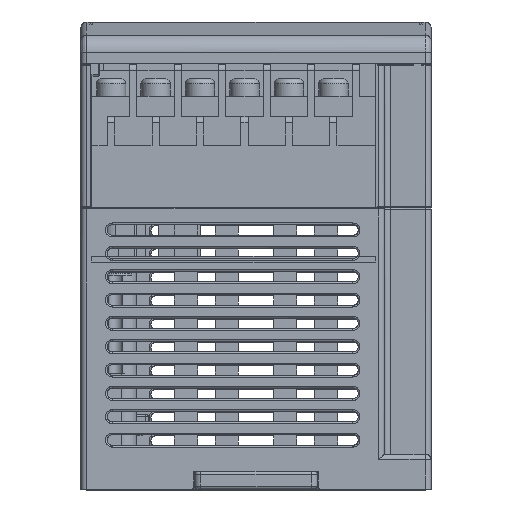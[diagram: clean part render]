
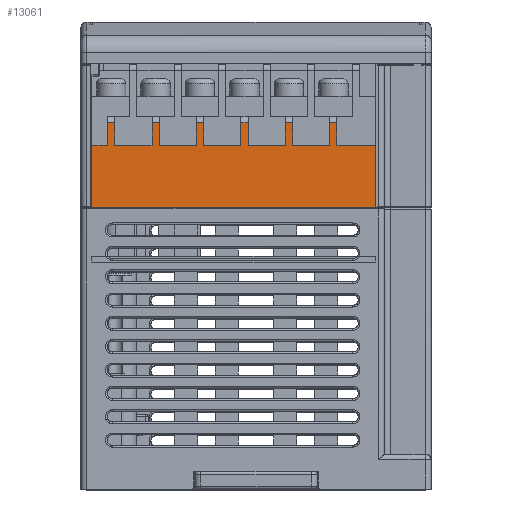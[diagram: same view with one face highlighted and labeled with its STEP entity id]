
A CAD part, top view. The second image highlights one B-rep face of the part: STEP entity #13061.
In plain terms, the highlighted planar face has unit normal (0, 0, 1).
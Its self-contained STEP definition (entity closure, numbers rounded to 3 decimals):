
#13061=ADVANCED_FACE('',(#16136),#74726,.T.);
#16136=FACE_OUTER_BOUND('',#19193,.T.);
#19193=EDGE_LOOP('',(#32343,#32344,#32345,#32346,#32347,#32348,#32349,#32350,
#32351,#32352,#32353,#32354,#32355,#32356,#32357,#32358,#32359,#32360,#32361,
#32362,#32363,#32364,#32365,#32366,#32367,#32368,#32369,#32370));
#32343=ORIENTED_EDGE('',*,*,#46739,.T.);
#32344=ORIENTED_EDGE('',*,*,#46740,.T.);
#32345=ORIENTED_EDGE('',*,*,#46741,.T.);
#32346=ORIENTED_EDGE('',*,*,#46742,.T.);
#32347=ORIENTED_EDGE('',*,*,#46743,.T.);
#32348=ORIENTED_EDGE('',*,*,#46744,.T.);
#32349=ORIENTED_EDGE('',*,*,#46745,.T.);
#32350=ORIENTED_EDGE('',*,*,#46746,.T.);
#32351=ORIENTED_EDGE('',*,*,#46747,.T.);
#32352=ORIENTED_EDGE('',*,*,#46748,.T.);
#32353=ORIENTED_EDGE('',*,*,#46749,.T.);
#32354=ORIENTED_EDGE('',*,*,#46750,.T.);
#32355=ORIENTED_EDGE('',*,*,#46751,.T.);
#32356=ORIENTED_EDGE('',*,*,#46752,.T.);
#32357=ORIENTED_EDGE('',*,*,#46753,.T.);
#32358=ORIENTED_EDGE('',*,*,#46754,.T.);
#32359=ORIENTED_EDGE('',*,*,#46755,.T.);
#32360=ORIENTED_EDGE('',*,*,#46756,.T.);
#32361=ORIENTED_EDGE('',*,*,#46757,.T.);
#32362=ORIENTED_EDGE('',*,*,#46758,.T.);
#32363=ORIENTED_EDGE('',*,*,#46759,.T.);
#32364=ORIENTED_EDGE('',*,*,#46760,.T.);
#32365=ORIENTED_EDGE('',*,*,#46761,.T.);
#32366=ORIENTED_EDGE('',*,*,#46762,.T.);
#32367=ORIENTED_EDGE('',*,*,#46763,.T.);
#32368=ORIENTED_EDGE('',*,*,#46764,.T.);
#32369=ORIENTED_EDGE('',*,*,#46765,.T.);
#32370=ORIENTED_EDGE('',*,*,#46766,.T.);
#46739=EDGE_CURVE('',#71802,#71803,#57638,.T.);
#46740=EDGE_CURVE('',#71803,#71804,#57639,.T.);
#46741=EDGE_CURVE('',#71804,#71805,#57640,.T.);
#46742=EDGE_CURVE('',#71805,#71806,#57641,.T.);
#46743=EDGE_CURVE('',#71806,#71807,#57642,.T.);
#46744=EDGE_CURVE('',#71807,#71808,#57643,.T.);
#46745=EDGE_CURVE('',#71808,#71809,#57644,.T.);
#46746=EDGE_CURVE('',#71809,#71810,#57645,.T.);
#46747=EDGE_CURVE('',#71810,#71811,#57646,.T.);
#46748=EDGE_CURVE('',#71811,#71812,#57647,.T.);
#46749=EDGE_CURVE('',#71812,#71813,#57648,.T.);
#46750=EDGE_CURVE('',#71813,#71814,#57649,.T.);
#46751=EDGE_CURVE('',#71814,#71815,#57650,.T.);
#46752=EDGE_CURVE('',#71815,#71816,#57651,.T.);
#46753=EDGE_CURVE('',#71816,#71817,#57652,.T.);
#46754=EDGE_CURVE('',#71817,#71818,#57653,.T.);
#46755=EDGE_CURVE('',#71818,#71819,#57654,.T.);
#46756=EDGE_CURVE('',#71819,#71820,#57655,.T.);
#46757=EDGE_CURVE('',#71820,#71821,#57656,.T.);
#46758=EDGE_CURVE('',#71821,#71822,#57657,.T.);
#46759=EDGE_CURVE('',#71822,#71823,#57658,.T.);
#46760=EDGE_CURVE('',#71823,#71824,#57659,.T.);
#46761=EDGE_CURVE('',#71824,#71825,#57660,.T.);
#46762=EDGE_CURVE('',#71825,#71826,#57661,.T.);
#46763=EDGE_CURVE('',#71826,#71827,#57662,.T.);
#46764=EDGE_CURVE('',#71827,#71828,#57663,.T.);
#46765=EDGE_CURVE('',#71828,#71829,#57664,.T.);
#46766=EDGE_CURVE('',#71829,#71802,#57665,.T.);
#57638=B_SPLINE_CURVE_WITH_KNOTS('',1,(#152910,#152911),.UNSPECIFIED.,.F.,
 .F.,(2,2),(0.,1.22),.UNSPECIFIED.);
#57639=B_SPLINE_CURVE_WITH_KNOTS('',1,(#152912,#152913),.UNSPECIFIED.,.F.,
 .F.,(2,2),(0.,3.9),.UNSPECIFIED.);
#57640=B_SPLINE_CURVE_WITH_KNOTS('',1,(#152914,#152915),.UNSPECIFIED.,.F.,
 .F.,(2,2),(0.,2.74),.UNSPECIFIED.);
#57641=B_SPLINE_CURVE_WITH_KNOTS('',1,(#152916,#152917),.UNSPECIFIED.,.F.,
 .F.,(2,2),(0.,10.6),.UNSPECIFIED.);
#57642=B_SPLINE_CURVE_WITH_KNOTS('',1,(#152918,#152919),.UNSPECIFIED.,.F.,
 .F.,(2,2),(0.,48.62),.UNSPECIFIED.);
#57643=B_SPLINE_CURVE_WITH_KNOTS('',1,(#152920,#152921),.UNSPECIFIED.,.F.,
 .F.,(2,2),(0.,10.6),.UNSPECIFIED.);
#57644=B_SPLINE_CURVE_WITH_KNOTS('',1,(#152922,#152923),.UNSPECIFIED.,.F.,
 .F.,(2,2),(0.,6.56),.UNSPECIFIED.);
#57645=B_SPLINE_CURVE_WITH_KNOTS('',1,(#152924,#152925),.UNSPECIFIED.,.F.,
 .F.,(2,2),(0.,3.9),.UNSPECIFIED.);
#57646=B_SPLINE_CURVE_WITH_KNOTS('',1,(#152926,#152927),.UNSPECIFIED.,.F.,
 .F.,(2,2),(0.,1.22),.UNSPECIFIED.);
#57647=B_SPLINE_CURVE_WITH_KNOTS('',1,(#152928,#152929),.UNSPECIFIED.,.F.,
 .F.,(2,2),(0.,3.9),.UNSPECIFIED.);
#57648=B_SPLINE_CURVE_WITH_KNOTS('',1,(#152930,#152931),.UNSPECIFIED.,.F.,
 .F.,(2,2),(0.,6.4),.UNSPECIFIED.);
#57649=B_SPLINE_CURVE_WITH_KNOTS('',1,(#152932,#152933),.UNSPECIFIED.,.F.,
 .F.,(2,2),(0.,3.9),.UNSPECIFIED.);
#57650=B_SPLINE_CURVE_WITH_KNOTS('',1,(#152934,#152935),.UNSPECIFIED.,.F.,
 .F.,(2,2),(0.,1.22),.UNSPECIFIED.);
#57651=B_SPLINE_CURVE_WITH_KNOTS('',1,(#152936,#152937),.UNSPECIFIED.,.F.,
 .F.,(2,2),(0.,3.9),.UNSPECIFIED.);
#57652=B_SPLINE_CURVE_WITH_KNOTS('',1,(#152938,#152939),.UNSPECIFIED.,.F.,
 .F.,(2,2),(0.,6.4),.UNSPECIFIED.);
#57653=B_SPLINE_CURVE_WITH_KNOTS('',1,(#152940,#152941),.UNSPECIFIED.,.F.,
 .F.,(2,2),(0.,3.9),.UNSPECIFIED.);
#57654=B_SPLINE_CURVE_WITH_KNOTS('',1,(#152942,#152943),.UNSPECIFIED.,.F.,
 .F.,(2,2),(0.,1.22),.UNSPECIFIED.);
#57655=B_SPLINE_CURVE_WITH_KNOTS('',1,(#152944,#152945),.UNSPECIFIED.,.F.,
 .F.,(2,2),(0.,3.9),.UNSPECIFIED.);
#57656=B_SPLINE_CURVE_WITH_KNOTS('',1,(#152946,#152947),.UNSPECIFIED.,.F.,
 .F.,(2,2),(0.,6.4),.UNSPECIFIED.);
#57657=B_SPLINE_CURVE_WITH_KNOTS('',1,(#152948,#152949),.UNSPECIFIED.,.F.,
 .F.,(2,2),(0.,3.9),.UNSPECIFIED.);
#57658=B_SPLINE_CURVE_WITH_KNOTS('',1,(#152950,#152951),.UNSPECIFIED.,.F.,
 .F.,(2,2),(0.,1.22),.UNSPECIFIED.);
#57659=B_SPLINE_CURVE_WITH_KNOTS('',1,(#152952,#152953),.UNSPECIFIED.,.F.,
 .F.,(2,2),(0.,3.9),.UNSPECIFIED.);
#57660=B_SPLINE_CURVE_WITH_KNOTS('',1,(#152954,#152955),.UNSPECIFIED.,.F.,
 .F.,(2,2),(0.,6.4),.UNSPECIFIED.);
#57661=B_SPLINE_CURVE_WITH_KNOTS('',1,(#152956,#152957),.UNSPECIFIED.,.F.,
 .F.,(2,2),(0.,3.9),.UNSPECIFIED.);
#57662=B_SPLINE_CURVE_WITH_KNOTS('',1,(#152958,#152959),.UNSPECIFIED.,.F.,
 .F.,(2,2),(0.,1.22),.UNSPECIFIED.);
#57663=B_SPLINE_CURVE_WITH_KNOTS('',1,(#152960,#152961),.UNSPECIFIED.,.F.,
 .F.,(2,2),(0.,3.9),.UNSPECIFIED.);
#57664=B_SPLINE_CURVE_WITH_KNOTS('',1,(#152962,#152963),.UNSPECIFIED.,.F.,
 .F.,(2,2),(0.,6.4),.UNSPECIFIED.);
#57665=B_SPLINE_CURVE_WITH_KNOTS('',1,(#152964,#152965),.UNSPECIFIED.,.F.,
 .F.,(2,2),(0.,3.9),.UNSPECIFIED.);
#71802=VERTEX_POINT('',#152882);
#71803=VERTEX_POINT('',#152883);
#71804=VERTEX_POINT('',#152884);
#71805=VERTEX_POINT('',#152885);
#71806=VERTEX_POINT('',#152886);
#71807=VERTEX_POINT('',#152887);
#71808=VERTEX_POINT('',#152888);
#71809=VERTEX_POINT('',#152889);
#71810=VERTEX_POINT('',#152890);
#71811=VERTEX_POINT('',#152891);
#71812=VERTEX_POINT('',#152892);
#71813=VERTEX_POINT('',#152893);
#71814=VERTEX_POINT('',#152894);
#71815=VERTEX_POINT('',#152895);
#71816=VERTEX_POINT('',#152896);
#71817=VERTEX_POINT('',#152897);
#71818=VERTEX_POINT('',#152898);
#71819=VERTEX_POINT('',#152899);
#71820=VERTEX_POINT('',#152900);
#71821=VERTEX_POINT('',#152901);
#71822=VERTEX_POINT('',#152902);
#71823=VERTEX_POINT('',#152903);
#71824=VERTEX_POINT('',#152904);
#71825=VERTEX_POINT('',#152905);
#71826=VERTEX_POINT('',#152906);
#71827=VERTEX_POINT('',#152907);
#71828=VERTEX_POINT('',#152908);
#71829=VERTEX_POINT('',#152909);
#74726=PLANE('',#77212);
#77212=AXIS2_PLACEMENT_3D('',#152881,#79649,$);
#79649=DIRECTION('',(0.,0.,1.));
#152881=CARTESIAN_POINT('',(-33.054,-1.527,45.));
#152882=CARTESIAN_POINT('',(-24.22,14.435,45.));
#152883=CARTESIAN_POINT('',(-25.44,14.435,45.));
#152884=CARTESIAN_POINT('',(-25.44,10.535,45.));
#152885=CARTESIAN_POINT('',(-28.18,10.535,45.));
#152886=CARTESIAN_POINT('',(-28.18,-0.065,45.));
#152887=CARTESIAN_POINT('',(20.44,-0.065,45.));
#152888=CARTESIAN_POINT('',(20.44,10.535,45.));
#152889=CARTESIAN_POINT('',(13.88,10.535,45.));
#152890=CARTESIAN_POINT('',(13.88,14.435,45.));
#152891=CARTESIAN_POINT('',(12.66,14.435,45.));
#152892=CARTESIAN_POINT('',(12.66,10.535,45.));
#152893=CARTESIAN_POINT('',(6.26,10.535,45.));
#152894=CARTESIAN_POINT('',(6.26,14.435,45.));
#152895=CARTESIAN_POINT('',(5.04,14.435,45.));
#152896=CARTESIAN_POINT('',(5.04,10.535,45.));
#152897=CARTESIAN_POINT('',(-1.36,10.535,45.));
#152898=CARTESIAN_POINT('',(-1.36,14.435,45.));
#152899=CARTESIAN_POINT('',(-2.58,14.435,45.));
#152900=CARTESIAN_POINT('',(-2.58,10.535,45.));
#152901=CARTESIAN_POINT('',(-8.98,10.535,45.));
#152902=CARTESIAN_POINT('',(-8.98,14.435,45.));
#152903=CARTESIAN_POINT('',(-10.2,14.435,45.));
#152904=CARTESIAN_POINT('',(-10.2,10.535,45.));
#152905=CARTESIAN_POINT('',(-16.6,10.535,45.));
#152906=CARTESIAN_POINT('',(-16.6,14.435,45.));
#152907=CARTESIAN_POINT('',(-17.82,14.435,45.));
#152908=CARTESIAN_POINT('',(-17.82,10.535,45.));
#152909=CARTESIAN_POINT('',(-24.22,10.535,45.));
#152910=CARTESIAN_POINT('',(-24.22,14.435,45.));
#152911=CARTESIAN_POINT('',(-25.44,14.435,45.));
#152912=CARTESIAN_POINT('',(-25.44,14.435,45.));
#152913=CARTESIAN_POINT('',(-25.44,10.535,45.));
#152914=CARTESIAN_POINT('',(-25.44,10.535,45.));
#152915=CARTESIAN_POINT('',(-28.18,10.535,45.));
#152916=CARTESIAN_POINT('',(-28.18,10.535,45.));
#152917=CARTESIAN_POINT('',(-28.18,-0.065,45.));
#152918=CARTESIAN_POINT('',(-28.18,-0.065,45.));
#152919=CARTESIAN_POINT('',(20.44,-0.065,45.));
#152920=CARTESIAN_POINT('',(20.44,-0.065,45.));
#152921=CARTESIAN_POINT('',(20.44,10.535,45.));
#152922=CARTESIAN_POINT('',(20.44,10.535,45.));
#152923=CARTESIAN_POINT('',(13.88,10.535,45.));
#152924=CARTESIAN_POINT('',(13.88,10.535,45.));
#152925=CARTESIAN_POINT('',(13.88,14.435,45.));
#152926=CARTESIAN_POINT('',(13.88,14.435,45.));
#152927=CARTESIAN_POINT('',(12.66,14.435,45.));
#152928=CARTESIAN_POINT('',(12.66,14.435,45.));
#152929=CARTESIAN_POINT('',(12.66,10.535,45.));
#152930=CARTESIAN_POINT('',(12.66,10.535,45.));
#152931=CARTESIAN_POINT('',(6.26,10.535,45.));
#152932=CARTESIAN_POINT('',(6.26,10.535,45.));
#152933=CARTESIAN_POINT('',(6.26,14.435,45.));
#152934=CARTESIAN_POINT('',(6.26,14.435,45.));
#152935=CARTESIAN_POINT('',(5.04,14.435,45.));
#152936=CARTESIAN_POINT('',(5.04,14.435,45.));
#152937=CARTESIAN_POINT('',(5.04,10.535,45.));
#152938=CARTESIAN_POINT('',(5.04,10.535,45.));
#152939=CARTESIAN_POINT('',(-1.36,10.535,45.));
#152940=CARTESIAN_POINT('',(-1.36,10.535,45.));
#152941=CARTESIAN_POINT('',(-1.36,14.435,45.));
#152942=CARTESIAN_POINT('',(-1.36,14.435,45.));
#152943=CARTESIAN_POINT('',(-2.58,14.435,45.));
#152944=CARTESIAN_POINT('',(-2.58,14.435,45.));
#152945=CARTESIAN_POINT('',(-2.58,10.535,45.));
#152946=CARTESIAN_POINT('',(-2.58,10.535,45.));
#152947=CARTESIAN_POINT('',(-8.98,10.535,45.));
#152948=CARTESIAN_POINT('',(-8.98,10.535,45.));
#152949=CARTESIAN_POINT('',(-8.98,14.435,45.));
#152950=CARTESIAN_POINT('',(-8.98,14.435,45.));
#152951=CARTESIAN_POINT('',(-10.2,14.435,45.));
#152952=CARTESIAN_POINT('',(-10.2,14.435,45.));
#152953=CARTESIAN_POINT('',(-10.2,10.535,45.));
#152954=CARTESIAN_POINT('',(-10.2,10.535,45.));
#152955=CARTESIAN_POINT('',(-16.6,10.535,45.));
#152956=CARTESIAN_POINT('',(-16.6,10.535,45.));
#152957=CARTESIAN_POINT('',(-16.6,14.435,45.));
#152958=CARTESIAN_POINT('',(-16.6,14.435,45.));
#152959=CARTESIAN_POINT('',(-17.82,14.435,45.));
#152960=CARTESIAN_POINT('',(-17.82,14.435,45.));
#152961=CARTESIAN_POINT('',(-17.82,10.535,45.));
#152962=CARTESIAN_POINT('',(-17.82,10.535,45.));
#152963=CARTESIAN_POINT('',(-24.22,10.535,45.));
#152964=CARTESIAN_POINT('',(-24.22,10.535,45.));
#152965=CARTESIAN_POINT('',(-24.22,14.435,45.));
